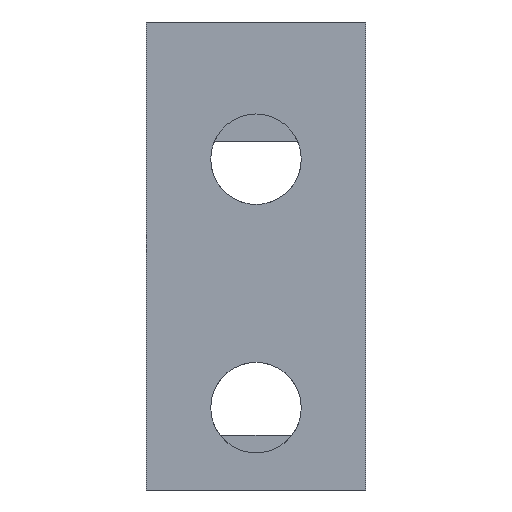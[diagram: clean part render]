
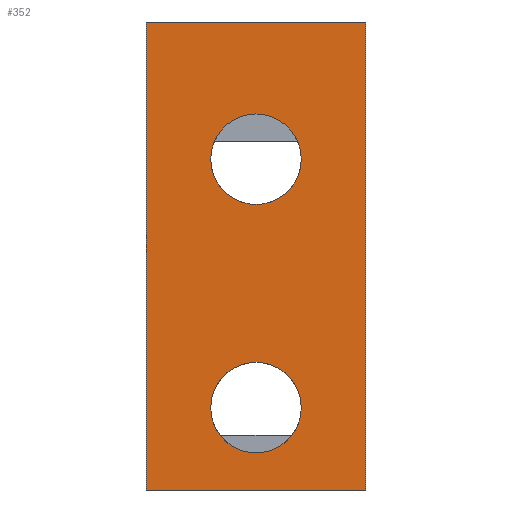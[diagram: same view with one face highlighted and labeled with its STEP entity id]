
A CAD part, left-side view. The second image highlights one B-rep face of the part: STEP entity #352.
In plain terms, the highlighted planar face has unit normal (-1, 0, 0).
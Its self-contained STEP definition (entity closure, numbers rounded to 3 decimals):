
#114 = VERTEX_POINT('',#115);
#115 = CARTESIAN_POINT('',(-121.,4.,-2.));
#121 = EDGE_CURVE('',#114,#122,#124,.T.);
#122 = VERTEX_POINT('',#123);
#123 = CARTESIAN_POINT('',(-121.,4.,15.05));
#124 = LINE('',#125,#126);
#125 = CARTESIAN_POINT('',(-121.,4.,-2.));
#126 = VECTOR('',#127,1.);
#127 = DIRECTION('',(0.,0.,1.));
#176 = VERTEX_POINT('',#177);
#177 = CARTESIAN_POINT('',(-121.,-4.,15.05));
#185 = EDGE_CURVE('',#122,#176,#186,.T.);
#186 = LINE('',#187,#188);
#187 = CARTESIAN_POINT('',(-121.,4.,15.05));
#188 = VECTOR('',#189,1.);
#189 = DIRECTION('',(0.,-1.,0.));
#199 = EDGE_CURVE('',#200,#176,#202,.T.);
#200 = VERTEX_POINT('',#201);
#201 = CARTESIAN_POINT('',(-121.,-4.,-2.));
#202 = LINE('',#203,#204);
#203 = CARTESIAN_POINT('',(-121.,-4.,-2.));
#204 = VECTOR('',#205,1.);
#205 = DIRECTION('',(0.,0.,1.));
#328 = EDGE_CURVE('',#114,#200,#329,.T.);
#329 = LINE('',#330,#331);
#330 = CARTESIAN_POINT('',(-121.,4.,-2.));
#331 = VECTOR('',#332,1.);
#332 = DIRECTION('',(0.,-1.,0.));
#352 = ADVANCED_FACE('',(#353,#359,#370),#381,.F.);
#353 = FACE_BOUND('',#354,.F.);
#354 = EDGE_LOOP('',(#355,#356,#357,#358));
#355 = ORIENTED_EDGE('',*,*,#121,.T.);
#356 = ORIENTED_EDGE('',*,*,#185,.T.);
#357 = ORIENTED_EDGE('',*,*,#199,.F.);
#358 = ORIENTED_EDGE('',*,*,#328,.F.);
#359 = FACE_BOUND('',#360,.F.);
#360 = EDGE_LOOP('',(#361));
#361 = ORIENTED_EDGE('',*,*,#362,.T.);
#362 = EDGE_CURVE('',#363,#363,#365,.T.);
#363 = VERTEX_POINT('',#364);
#364 = CARTESIAN_POINT('',(-121.,0.,11.7));
#365 = CIRCLE('',#366,1.65);
#366 = AXIS2_PLACEMENT_3D('',#367,#368,#369);
#367 = CARTESIAN_POINT('',(-121.,0.,10.05));
#368 = DIRECTION('',(-1.,0.,0.));
#369 = DIRECTION('',(0.,0.,1.));
#370 = FACE_BOUND('',#371,.F.);
#371 = EDGE_LOOP('',(#372));
#372 = ORIENTED_EDGE('',*,*,#373,.T.);
#373 = EDGE_CURVE('',#374,#374,#376,.T.);
#374 = VERTEX_POINT('',#375);
#375 = CARTESIAN_POINT('',(-121.,0.,2.65));
#376 = CIRCLE('',#377,1.65);
#377 = AXIS2_PLACEMENT_3D('',#378,#379,#380);
#378 = CARTESIAN_POINT('',(-121.,0.,1.));
#379 = DIRECTION('',(-1.,0.,0.));
#380 = DIRECTION('',(0.,0.,1.));
#381 = PLANE('',#382);
#382 = AXIS2_PLACEMENT_3D('',#383,#384,#385);
#383 = CARTESIAN_POINT('',(-121.,4.,-2.));
#384 = DIRECTION('',(1.,0.,0.));
#385 = DIRECTION('',(0.,-1.,0.));
